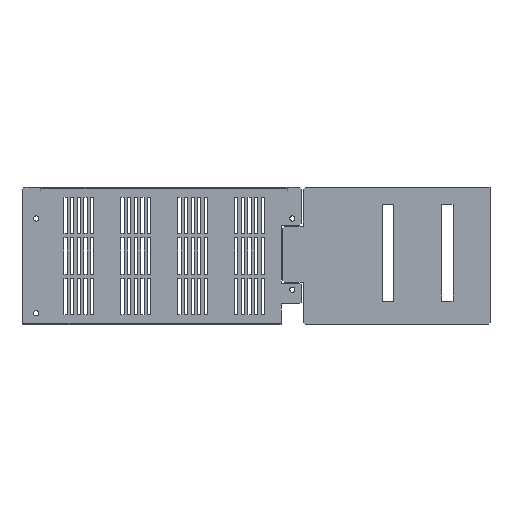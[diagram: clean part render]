
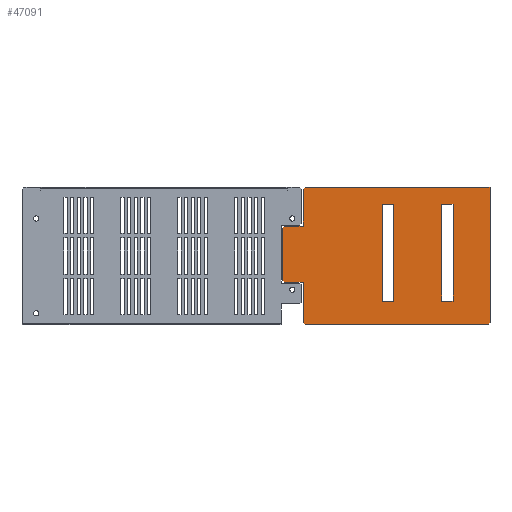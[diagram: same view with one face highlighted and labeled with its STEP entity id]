
A CAD part, top view. The second image highlights one B-rep face of the part: STEP entity #47091.
In plain terms, the highlighted planar face has unit normal (0, 0, 1).
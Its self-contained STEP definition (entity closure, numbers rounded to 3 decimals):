
#46181=CARTESIAN_POINT(' ',(70.5,-47.5,0.));
#46186=DIRECTION(' ',(0.,1.,0.));
#46191=VECTOR(' ',#46186,1.);
#46196=LINE('',#46181,#46191);
#46201=CARTESIAN_POINT(' ',(70.5,-47.5,0.));
#46202=VERTEX_POINT(' ',#46201);
#46206=CARTESIAN_POINT(' ',(70.5,54.5,0.));
#46207=VERTEX_POINT(' ',#46206);
#46211=EDGE_CURVE(' ',#46202,#46207,#46196,.T.);
#46336=DIRECTION(' ',(-0.,0.,1.));
#46341=CARTESIAN_POINT(' ',(-109.5,-72.5,0.));
#46346=DIRECTION(' ',(1.,0.,0.));
#46351=AXIS2_PLACEMENT_3D(' ',#46341,#46336,#46346);
#46356=PLANE('NONE',#46351);
#46361=CARTESIAN_POINT(' ',(-109.5,29.5,0.));
#46366=DIRECTION(' ',(0.,-1.,0.));
#46371=VECTOR(' ',#46366,1.);
#46376=LINE('',#46361,#46371);
#46381=CARTESIAN_POINT(' ',(-109.5,29.5,0.));
#46382=VERTEX_POINT(' ',#46381);
#46386=CARTESIAN_POINT(' ',(-109.5,-25.5,0.));
#46387=VERTEX_POINT(' ',#46386);
#46391=EDGE_CURVE(' ',#46382,#46387,#46376,.T.);
#46396=ORIENTED_EDGE(' ',*,*,#46391,.T.);
#46401=CARTESIAN_POINT(' ',(-109.5,-25.5,0.));
#46406=DIRECTION(' ',(0.707,-0.707,0.));
#46411=VECTOR(' ',#46406,1.);
#46416=LINE('',#46401,#46411);
#46421=CARTESIAN_POINT(' ',(-107.5,-27.5,0.));
#46422=VERTEX_POINT(' ',#46421);
#46426=EDGE_CURVE(' ',#46387,#46422,#46416,.T.);
#46431=ORIENTED_EDGE(' ',*,*,#46426,.T.);
#46436=CARTESIAN_POINT(' ',(-107.5,-27.5,0.));
#46441=DIRECTION(' ',(1.,0.,0.));
#46446=VECTOR(' ',#46441,1.);
#46451=LINE('',#46436,#46446);
#46456=CARTESIAN_POINT(' ',(-87.5,-27.5,0.));
#46457=VERTEX_POINT(' ',#46456);
#46461=EDGE_CURVE(' ',#46422,#46457,#46451,.T.);
#46466=ORIENTED_EDGE(' ',*,*,#46461,.T.);
#46471=CARTESIAN_POINT(' ',(-87.5,-27.5,0.));
#46476=DIRECTION(' ',(0.,-1.,0.));
#46481=VECTOR(' ',#46476,1.);
#46486=LINE('',#46471,#46481);
#46491=CARTESIAN_POINT(' ',(-87.5,-70.5,0.));
#46492=VERTEX_POINT(' ',#46491);
#46496=EDGE_CURVE(' ',#46457,#46492,#46486,.T.);
#46501=ORIENTED_EDGE(' ',*,*,#46496,.T.);
#46506=CARTESIAN_POINT(' ',(-87.5,-70.5,0.));
#46511=DIRECTION(' ',(0.707,-0.707,0.));
#46516=VECTOR(' ',#46511,1.);
#46521=LINE('',#46506,#46516);
#46526=CARTESIAN_POINT(' ',(-85.5,-72.5,0.));
#46527=VERTEX_POINT(' ',#46526);
#46531=EDGE_CURVE(' ',#46492,#46527,#46521,.T.);
#46536=ORIENTED_EDGE(' ',*,*,#46531,.T.);
#46541=CARTESIAN_POINT(' ',(-85.5,-72.5,0.));
#46546=DIRECTION(' ',(1.,0.,0.));
#46551=VECTOR(' ',#46546,1.);
#46556=LINE('',#46541,#46551);
#46561=CARTESIAN_POINT(' ',(107.5,-72.5,0.));
#46562=VERTEX_POINT(' ',#46561);
#46566=EDGE_CURVE(' ',#46527,#46562,#46556,.T.);
#46571=ORIENTED_EDGE(' ',*,*,#46566,.T.);
#46576=CARTESIAN_POINT(' ',(107.5,-72.5,0.));
#46581=DIRECTION(' ',(0.707,0.707,0.));
#46586=VECTOR(' ',#46581,1.);
#46591=LINE('',#46576,#46586);
#46596=CARTESIAN_POINT(' ',(109.5,-70.5,0.));
#46597=VERTEX_POINT(' ',#46596);
#46601=EDGE_CURVE(' ',#46562,#46597,#46591,.T.);
#46606=ORIENTED_EDGE(' ',*,*,#46601,.T.);
#46611=CARTESIAN_POINT(' ',(109.5,-70.5,0.));
#46616=DIRECTION(' ',(0.,1.,0.));
#46621=VECTOR(' ',#46616,1.);
#46626=LINE('',#46611,#46621);
#46631=CARTESIAN_POINT(' ',(109.5,72.5,0.));
#46632=VERTEX_POINT(' ',#46631);
#46636=EDGE_CURVE(' ',#46597,#46632,#46626,.T.);
#46641=ORIENTED_EDGE(' ',*,*,#46636,.T.);
#46646=CARTESIAN_POINT(' ',(109.5,72.5,0.));
#46651=DIRECTION(' ',(-1.,0.,0.));
#46656=VECTOR(' ',#46651,1.);
#46661=LINE('',#46646,#46656);
#46666=CARTESIAN_POINT(' ',(-85.5,72.5,0.));
#46667=VERTEX_POINT(' ',#46666);
#46671=EDGE_CURVE(' ',#46632,#46667,#46661,.T.);
#46676=ORIENTED_EDGE(' ',*,*,#46671,.T.);
#46681=CARTESIAN_POINT(' ',(-85.5,72.5,0.));
#46686=DIRECTION(' ',(-0.707,-0.707,0.));
#46691=VECTOR(' ',#46686,1.);
#46696=LINE('',#46681,#46691);
#46701=CARTESIAN_POINT(' ',(-87.5,70.5,0.));
#46702=VERTEX_POINT(' ',#46701);
#46706=EDGE_CURVE(' ',#46667,#46702,#46696,.T.);
#46711=ORIENTED_EDGE(' ',*,*,#46706,.T.);
#46716=CARTESIAN_POINT(' ',(-87.5,70.5,0.));
#46721=DIRECTION(' ',(0.,-1.,0.));
#46726=VECTOR(' ',#46721,1.);
#46731=LINE('',#46716,#46726);
#46736=CARTESIAN_POINT(' ',(-87.5,31.5,0.));
#46737=VERTEX_POINT(' ',#46736);
#46741=EDGE_CURVE(' ',#46702,#46737,#46731,.T.);
#46746=ORIENTED_EDGE(' ',*,*,#46741,.T.);
#46751=CARTESIAN_POINT(' ',(-87.5,31.5,0.));
#46756=DIRECTION(' ',(-1.,0.,0.));
#46761=VECTOR(' ',#46756,1.);
#46766=LINE('',#46751,#46761);
#46771=CARTESIAN_POINT(' ',(-107.5,31.5,0.));
#46772=VERTEX_POINT(' ',#46771);
#46776=EDGE_CURVE(' ',#46737,#46772,#46766,.T.);
#46781=ORIENTED_EDGE(' ',*,*,#46776,.T.);
#46786=CARTESIAN_POINT(' ',(-107.5,31.5,0.));
#46791=DIRECTION(' ',(-0.707,-0.707,0.));
#46796=VECTOR(' ',#46791,1.);
#46801=LINE('',#46786,#46796);
#46806=EDGE_CURVE(' ',#46772,#46382,#46801,.T.);
#46811=ORIENTED_EDGE(' ',*,*,#46806,.T.);
#46816=EDGE_LOOP(' ',(#46396,#46431,#46466,#46501,#46536,#46571,#46606,#46641,#46676,#46711,#46746,#46781,#46811));
#46821=FACE_OUTER_BOUND(' ',#46816,.T.);
#46826=CARTESIAN_POINT(' ',(58.5,54.5,0.));
#46831=DIRECTION(' ',(0.,-1.,0.));
#46836=VECTOR(' ',#46831,1.);
#46841=LINE('',#46826,#46836);
#46846=CARTESIAN_POINT(' ',(58.5,54.5,0.));
#46847=VERTEX_POINT(' ',#46846);
#46851=CARTESIAN_POINT(' ',(58.5,-47.5,0.));
#46852=VERTEX_POINT(' ',#46851);
#46856=EDGE_CURVE(' ',#46847,#46852,#46841,.T.);
#46861=ORIENTED_EDGE(' ',*,*,#46856,.F.);
#46866=CARTESIAN_POINT(' ',(70.5,54.5,0.));
#46871=DIRECTION(' ',(-1.,0.,0.));
#46876=VECTOR(' ',#46871,1.);
#46881=LINE('',#46866,#46876);
#46886=EDGE_CURVE(' ',#46207,#46847,#46881,.T.);
#46891=ORIENTED_EDGE(' ',*,*,#46886,.F.);
#46896=ORIENTED_EDGE(' ',*,*,#46211,.F.);
#46901=CARTESIAN_POINT(' ',(58.5,-47.5,0.));
#46906=DIRECTION(' ',(1.,0.,0.));
#46911=VECTOR(' ',#46906,1.);
#46916=LINE('',#46901,#46911);
#46921=EDGE_CURVE(' ',#46852,#46202,#46916,.T.);
#46926=ORIENTED_EDGE(' ',*,*,#46921,.F.);
#46931=EDGE_LOOP(' ',(#46861,#46891,#46896,#46926));
#46936=FACE_BOUND(' ',#46931,.T.);
#46941=CARTESIAN_POINT(' ',(-4.,54.5,0.));
#46946=DIRECTION(' ',(0.,-1.,0.));
#46951=VECTOR(' ',#46946,1.);
#46956=LINE('',#46941,#46951);
#46961=CARTESIAN_POINT(' ',(-4.,54.5,0.));
#46962=VERTEX_POINT(' ',#46961);
#46966=CARTESIAN_POINT(' ',(-4.,-47.5,0.));
#46967=VERTEX_POINT(' ',#46966);
#46971=EDGE_CURVE(' ',#46962,#46967,#46956,.T.);
#46976=ORIENTED_EDGE(' ',*,*,#46971,.F.);
#46981=CARTESIAN_POINT(' ',(8.,54.5,0.));
#46986=DIRECTION(' ',(-1.,0.,0.));
#46991=VECTOR(' ',#46986,1.);
#46996=LINE('',#46981,#46991);
#47001=CARTESIAN_POINT(' ',(8.,54.5,0.));
#47002=VERTEX_POINT(' ',#47001);
#47006=EDGE_CURVE(' ',#47002,#46962,#46996,.T.);
#47011=ORIENTED_EDGE(' ',*,*,#47006,.F.);
#47016=CARTESIAN_POINT(' ',(8.,-47.5,0.));
#47021=DIRECTION(' ',(0.,1.,0.));
#47026=VECTOR(' ',#47021,1.);
#47031=LINE('',#47016,#47026);
#47036=CARTESIAN_POINT(' ',(8.,-47.5,0.));
#47037=VERTEX_POINT(' ',#47036);
#47041=EDGE_CURVE(' ',#47037,#47002,#47031,.T.);
#47046=ORIENTED_EDGE(' ',*,*,#47041,.F.);
#47051=CARTESIAN_POINT(' ',(-4.,-47.5,0.));
#47056=DIRECTION(' ',(1.,0.,0.));
#47061=VECTOR(' ',#47056,1.);
#47066=LINE('',#47051,#47061);
#47071=EDGE_CURVE(' ',#46967,#47037,#47066,.T.);
#47076=ORIENTED_EDGE(' ',*,*,#47071,.F.);
#47081=EDGE_LOOP(' ',(#46976,#47011,#47046,#47076));
#47086=FACE_BOUND(' ',#47081,.T.);
#47091=ADVANCED_FACE('NONE',(#46821,#46936,#47086),#46356,.T.);
